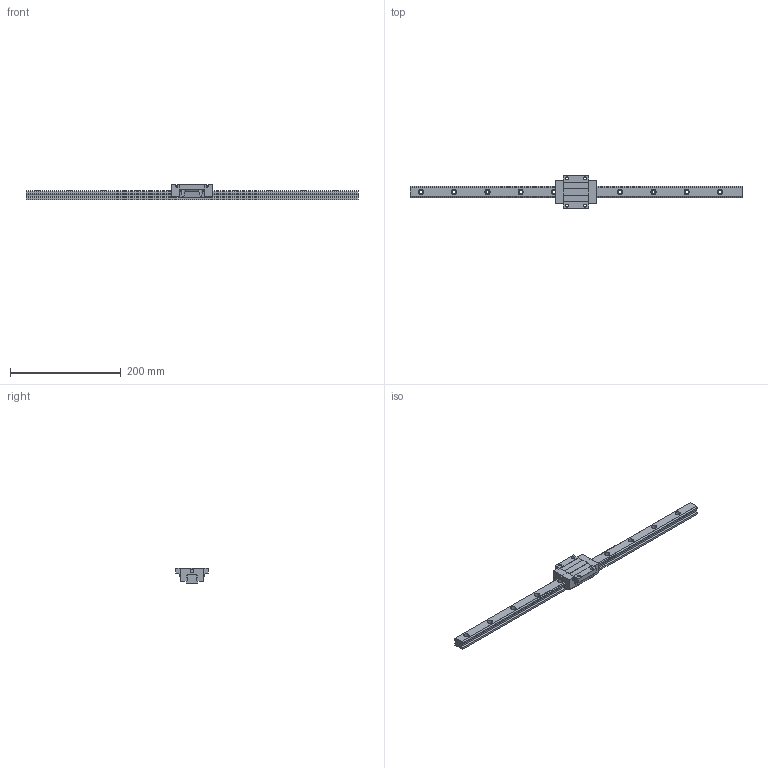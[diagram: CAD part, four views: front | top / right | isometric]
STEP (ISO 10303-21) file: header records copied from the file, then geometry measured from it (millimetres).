
FILE_DESCRIPTION (( 'STEP AP203' ), '1' );
FILE_NAME ('TRS20FN-SU.STEP', '2024-06-26T03:20:13', ( '' ), ( '' ), 'SwSTEP 2.0', 'SolidWorks 2022', '' );
FILE_SCHEMA (( 'CONFIG_CONTROL_DESIGN' ));
Length unit declared in the file: millimetre
Products named in the file (1): TRS20FN-SU
Bounding box: 600 x 59 x 28 mm (x, y, z)
Volume: 227744.4 mm3; surface area: 65030.6 mm2
Topology: 2 solids, 2 shells, 234 faces, 618 edges, 400 vertices
Faces by surface type: cylinder 124, plane 106, sphere 4
Entity records: 7573 total; most frequent: CARTESIAN_POINT 1509, DIRECTION 1284, ORIENTED_EDGE 1228, EDGE_CURVE 614, AXIS2_PLACEMENT_3D 459, VERTEX_POINT 400, VECTOR 366, LINE 366
